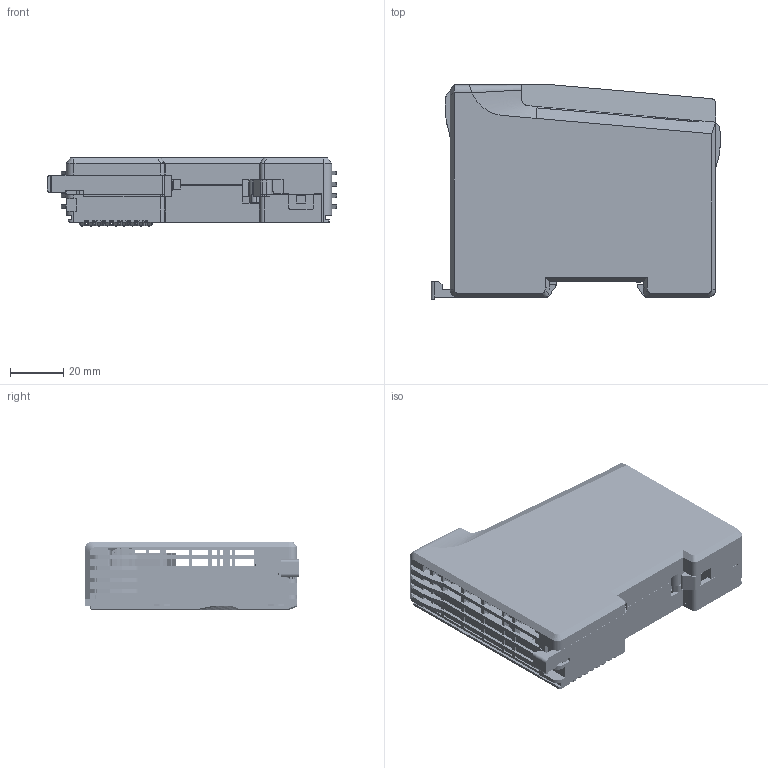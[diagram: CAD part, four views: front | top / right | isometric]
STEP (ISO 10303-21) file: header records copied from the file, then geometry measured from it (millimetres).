
FILE_DESCRIPTION(('SolidDesigner STEP Export'),'2;1');
FILE_NAME('耦合器.stp','2025-04-22T13:21:05',(''),(''),'Creo Elements/Direct Modeling STEP processor for AP214 (Solid Model)','Creo Elements/Direct Modeling 20.1 10-Mar-2018 (C) Parametric Technology GmbH','');
FILE_SCHEMA(('AUTOMOTIVE_DESIGN { 1 0 10303 214 1 1 1 1 }'));
Products named in the file (19): plastic housing; THREE_LINKS_CONNECTOR; PCB-COUPLER-HOUSING.1; flash port; PCB-COUPLER; Grounding_spring; RJ45-HANRUN-HR913550A.1; DMC-1.5-5-G1F-3.5-H.1.2; DMC1.5-5-GF-WS-3.5.1; type c; GL20_THREE_LINKS_CONNECTOR.1.1; PCB ASM; COUPLER-HOUSING-L; COUPLER-HOUSING-R.1; FAPA-COUPLER-HOUSING-TOLERANCE_CHECKING; Plastic pull rod; 拉杆(1).stp; coupler-housing-ASSEMBLY
Assembly tree (19 placements, depth 4):
  coupler-housing-ASSEMBLY
    拉杆(1).stp
      Plastic pull rod
        Plastic pull rod
    FAPA-COUPLER-HOUSING-TOLERANCE_CHECKING
      COUPLER-HOUSING-R.1
      COUPLER-HOUSING-L
    PCB ASM
      GL20_THREE_LINKS_CONNECTOR.1.1
      type c
      DMC1.5-5-GF-WS-3.5.1
        DMC-1.5-5-G1F-3.5-H.1.2
      RJ45-HANRUN-HR913550A.1  x2
    Grounding_spring
    PCB-COUPLER
      flash port
      PCB-COUPLER-HOUSING.1
    THREE_LINKS_CONNECTOR
      plastic housing
Bounding box: 108.84 x 80.7 x 25.6 mm (x, y, z)
Volume: 63264.1 mm3; surface area: 79802.8 mm2
Topology: 11 solids, 12 shells, 8948 faces, 25977 edges, 16747 vertices
Faces by surface type: plane 5734, cylinder 2387, bspline 503, torus 128, cone 93, sphere 65, extrusion 38
Entity records: 319475 total; most frequent: CARTESIAN_POINT 85103, ORIENTED_EDGE 50376, DIRECTION 43668, EDGE_CURVE 25178, VECTOR 18146, LINE 18108, VERTEX_POINT 16309, AXIS2_PLACEMENT_3D 12761
